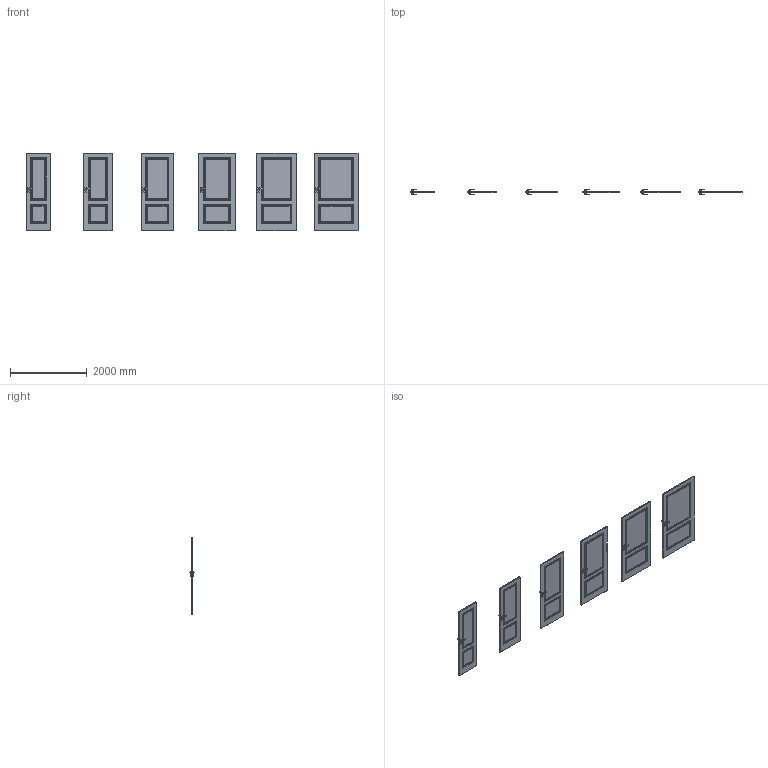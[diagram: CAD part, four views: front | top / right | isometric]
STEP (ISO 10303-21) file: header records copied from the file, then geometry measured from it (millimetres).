
FILE_DESCRIPTION(/* description */ (''),/* implementation_level */ '2;1');
FILE_NAME(/* name */ '049710_A_2-Skrzydło VECTOR V_ polska norma _PN__ odwrotna przylga..stp',/* time_stamp */ '2024-02-14T11:45:49+01:00',/* author */ (''),/* organization */ (''),/* preprocessor_version */ 'ST-DEVELOPER v16',/* originating_system */ 'SIEMENS PLM Software NX 11.0',/* authorisation */ '');
FILE_SCHEMA (('AUTOMOTIVE_DESIGN { 1 0 10303 214 3 1 1 1 }'));
Products named in the file (1): bkni07C850E0u6ee
Bounding box: 8639 x 153.27 x 2027 mm (x, y, z)
Volume: 420873791.6 mm3; surface area: 23385899.8 mm2
Topology: 30 solids, 30 shells, 3960 faces, 8868 edges, 5040 vertices
Faces by surface type: bspline 2112, plane 1416, cylinder 264, sphere 168
Entity records: 111940 total; most frequent: CARTESIAN_POINT 38797, ORIENTED_EDGE 17400, DIRECTION 11606, EDGE_CURVE 8700, LINE 5700, VECTOR 5700, VERTEX_POINT 5040, EDGE_LOOP 4224
